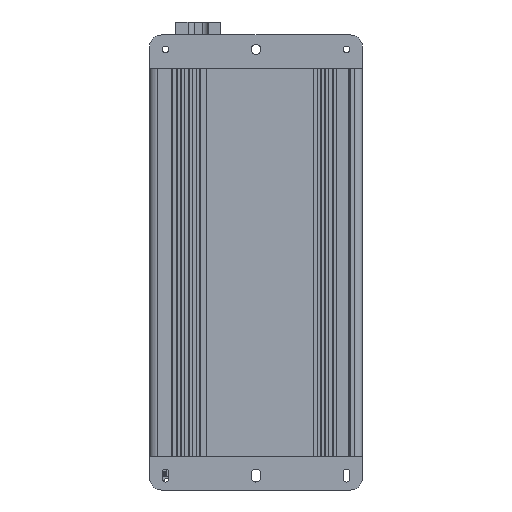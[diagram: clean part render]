
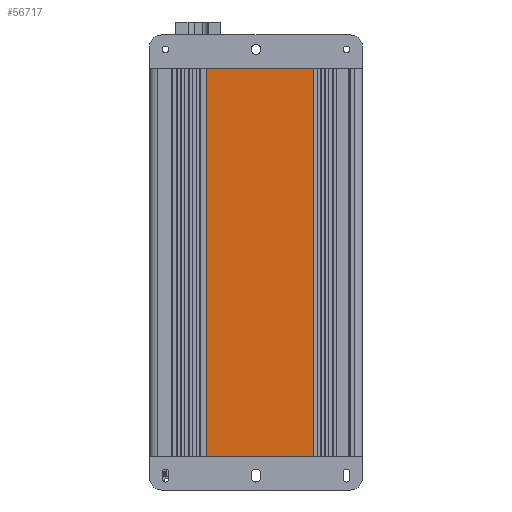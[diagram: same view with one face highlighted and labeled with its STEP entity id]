
A CAD part, front view. The second image highlights one B-rep face of the part: STEP entity #56717.
In plain terms, the highlighted planar face has unit normal (0, -1, 0).
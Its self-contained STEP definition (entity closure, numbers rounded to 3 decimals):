
#3547=LINE('',#104226,#7957);
#4225=LINE('',#106508,#8635);
#4226=LINE('',#106511,#8636);
#4227=LINE('',#106512,#8637);
#7957=VECTOR('',#70355,0.394);
#8635=VECTOR('',#72377,0.394);
#8636=VECTOR('',#72380,0.394);
#8637=VECTOR('',#72381,0.394);
#14573=FACE_OUTER_BOUND('',#17523,.T.);
#17523=EDGE_LOOP('',(#47942,#47943,#47944,#47945));
#24548=VERTEX_POINT('',#104223);
#24549=VERTEX_POINT('',#104225);
#25233=VERTEX_POINT('',#106506);
#25234=VERTEX_POINT('',#106510);
#32035=EDGE_CURVE('',#24548,#24549,#3547,.T.);
#33071=EDGE_CURVE('',#25233,#24549,#4225,.T.);
#33072=EDGE_CURVE('',#25233,#25234,#4226,.T.);
#33073=EDGE_CURVE('',#25234,#24548,#4227,.T.);
#47942=ORIENTED_EDGE('',*,*,#33072,.F.);
#47943=ORIENTED_EDGE('',*,*,#33071,.T.);
#47944=ORIENTED_EDGE('',*,*,#32035,.F.);
#47945=ORIENTED_EDGE('',*,*,#33073,.F.);
#52262=PLANE('',#60952);
#56717=ADVANCED_FACE('',(#14573),#52262,.T.);
#60952=AXIS2_PLACEMENT_3D('',#106509,#72378,#72379);
#70355=DIRECTION('',(1.,0.,0.));
#72377=DIRECTION('',(0.,0.,1.));
#72378=DIRECTION('center_axis',(0.,-1.,0.));
#72379=DIRECTION('ref_axis',(1.,0.,0.));
#72380=DIRECTION('',(-1.,0.,0.));
#72381=DIRECTION('',(0.,0.,1.));
#104223=CARTESIAN_POINT('',(7.095,4.1,0.866));
#104225=CARTESIAN_POINT('',(9.851,4.1,0.866));
#104226=CARTESIAN_POINT('',(7.732,4.1,0.866));
#106506=CARTESIAN_POINT('',(9.851,4.1,-9.173));
#106508=CARTESIAN_POINT('',(9.851,4.1,-9.173));
#106509=CARTESIAN_POINT('Origin',(7.095,4.1,-9.173));
#106510=CARTESIAN_POINT('',(7.095,4.1,-9.173));
#106511=CARTESIAN_POINT('',(7.732,4.1,-9.173));
#106512=CARTESIAN_POINT('',(7.095,4.1,-9.173));
